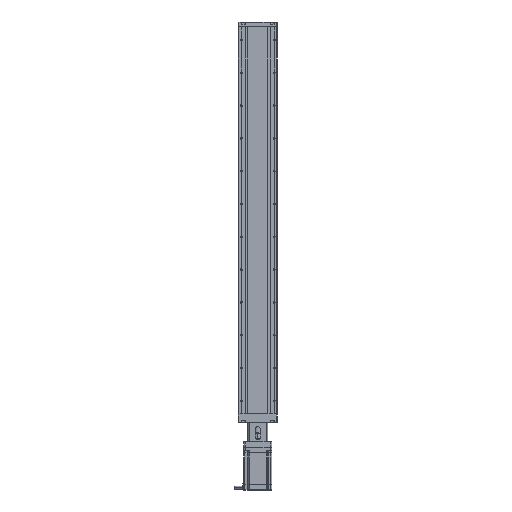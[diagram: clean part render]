
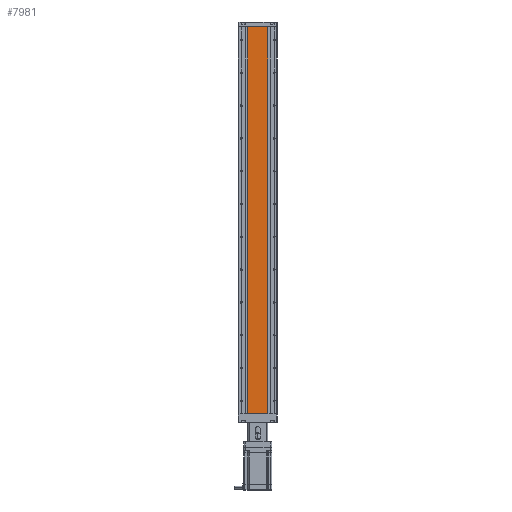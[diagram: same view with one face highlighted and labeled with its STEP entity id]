
A CAD part, front view. The second image highlights one B-rep face of the part: STEP entity #7981.
In plain terms, the highlighted planar face has unit normal (0, -1, 0).
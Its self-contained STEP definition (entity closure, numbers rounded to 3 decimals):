
#176 = CARTESIAN_POINT ( 'NONE',  ( -30., -29.2, -590. ) ) ;
#2752 = CARTESIAN_POINT ( 'NONE',  ( -30., -29.2, 590. ) ) ;
#4579 = EDGE_CURVE ( 'NONE', #52126, #51932, #41231, .T. ) ;
#4975 = CARTESIAN_POINT ( 'NONE',  ( -30., -29.2, -590. ) ) ;
#7510 = AXIS2_PLACEMENT_3D ( 'NONE', #19703, #30450, #41513 ) ;
#7981 = ADVANCED_FACE ( 'NONE', ( #35123 ), #8627, .F. ) ;
#8627 = PLANE ( 'NONE',  #7510 ) ;
#9401 = CARTESIAN_POINT ( 'NONE',  ( -30., -29.2, 590. ) ) ;
#10934 = LINE ( 'NONE', #176, #22242 ) ;
#12582 = ORIENTED_EDGE ( 'NONE', *, *, #4579, .T. ) ;
#12860 = VECTOR ( 'NONE', #41556, 1000. ) ;
#17193 = VECTOR ( 'NONE', #48025, 1000. ) ;
#19703 = CARTESIAN_POINT ( 'NONE',  ( -30., -29.2, -590. ) ) ;
#22242 = VECTOR ( 'NONE', #37084, 1000. ) ;
#26106 = DIRECTION ( 'NONE',  ( -1., 0., 0. ) ) ;
#30310 = VECTOR ( 'NONE', #26106, 1000. ) ;
#30450 = DIRECTION ( 'NONE',  ( 0., 1., 0. ) ) ;
#31331 = EDGE_LOOP ( 'NONE', ( #64683, #45920, #64991, #12582 ) ) ;
#35123 = FACE_OUTER_BOUND ( 'NONE', #31331, .T. ) ;
#37084 = DIRECTION ( 'NONE',  ( 0., 0., 1. ) ) ;
#39272 = VERTEX_POINT ( 'NONE', #48310 ) ;
#41231 = LINE ( 'NONE', #9401, #17193 ) ;
#41513 = DIRECTION ( 'NONE',  ( 0., 0., 1. ) ) ;
#41556 = DIRECTION ( 'NONE',  ( 0., 0., 1. ) ) ;
#43867 = CARTESIAN_POINT ( 'NONE',  ( 30., -29.2, 590. ) ) ;
#45920 = ORIENTED_EDGE ( 'NONE', *, *, #51656, .F. ) ;
#48025 = DIRECTION ( 'NONE',  ( -1., 0., 0. ) ) ;
#48310 = CARTESIAN_POINT ( 'NONE',  ( -30., -29.2, -590. ) ) ;
#51656 = EDGE_CURVE ( 'NONE', #60741, #39272, #60473, .T. ) ;
#51932 = VERTEX_POINT ( 'NONE', #2752 ) ;
#52126 = VERTEX_POINT ( 'NONE', #43867 ) ;
#58408 = EDGE_CURVE ( 'NONE', #60741, #52126, #61065, .T. ) ;
#60473 = LINE ( 'NONE', #4975, #30310 ) ;
#60741 = VERTEX_POINT ( 'NONE', #66063 ) ;
#61065 = LINE ( 'NONE', #66787, #12860 ) ;
#64683 = ORIENTED_EDGE ( 'NONE', *, *, #70844, .F. ) ;
#64991 = ORIENTED_EDGE ( 'NONE', *, *, #58408, .T. ) ;
#66063 = CARTESIAN_POINT ( 'NONE',  ( 30., -29.2, -590. ) ) ;
#66787 = CARTESIAN_POINT ( 'NONE',  ( 30., -29.2, -590. ) ) ;
#70844 = EDGE_CURVE ( 'NONE', #39272, #51932, #10934, .T. ) ;
